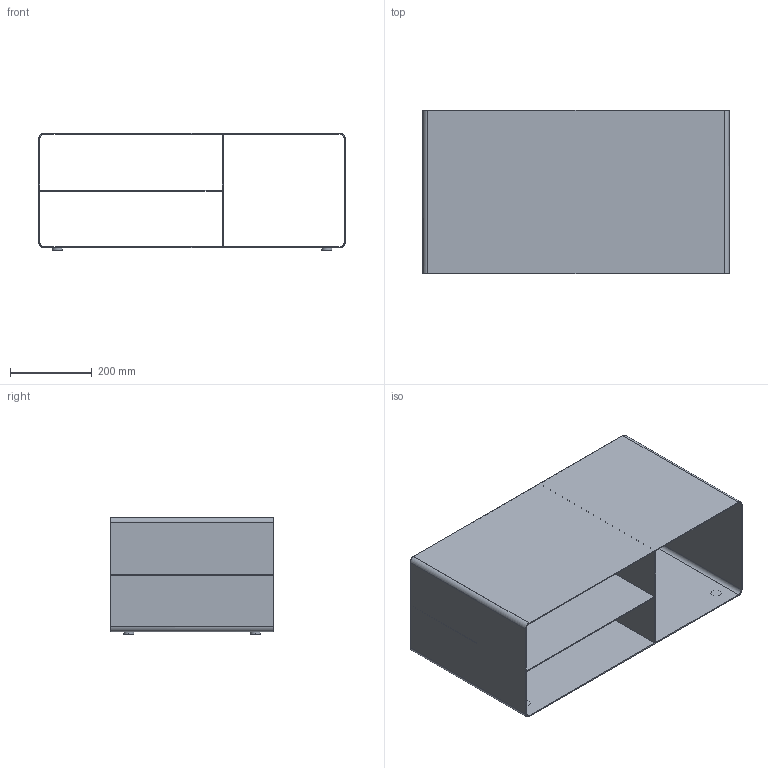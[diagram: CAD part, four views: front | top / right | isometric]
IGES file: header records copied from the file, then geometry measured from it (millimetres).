
Start section: Comment
Global section: file name: R104N.igs; native system:  By UGS Corp.; preprocessor: XPlus GENERIC/IGES 3.0; author: Author; organization: Title; date: 20151109.125944; units: inch
Bounding box: 750 x 400 x 287 mm (x, y, z)
Surface area: 2213306.2 mm2 (no closed solid volume)
Topology: 0 solids, 0 shells, 38 faces, 192 edges, 192 vertices
Faces by surface type: bspline 38
